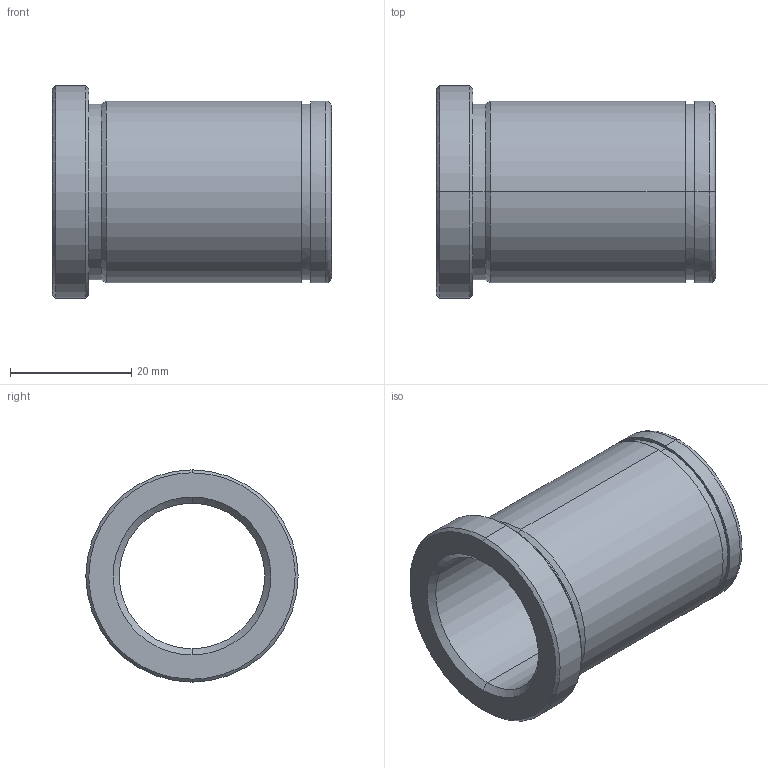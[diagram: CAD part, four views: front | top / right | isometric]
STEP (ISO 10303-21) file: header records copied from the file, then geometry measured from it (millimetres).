
FILE_DESCRIPTION(('CATIA V5 STEP Exchange'),'2;1');
FILE_NAME('C:\Users\Utente\Desktop\IO LAVORO\3D X SITO CF\X SITO\PLASTICA\553\553-24X46.stp','2021-05-25T18:22:37+00:00',('none'),('none'),'CATIA Version 5 Release 20 GA (IN-10)','CATIA V5 STEP AP203','none');
FILE_SCHEMA(('CONFIG_CONTROL_DESIGN'));
Length unit declared in the file: millimetre
Products named in the file (1): 553-24X46
Bounding box: 46 x 35 x 35 mm (x, y, z)
Volume: 12926.7 mm3; surface area: 8859.8 mm2
Topology: 1 solids, 1 shells, 29 faces, 92 edges, 68 vertices
Faces by surface type: cylinder 12, cone 8, plane 5, torus 4
Entity records: 1222 total; most frequent: CARTESIAN_POINT 368, ORIENTED_EDGE 184, DIRECTION 136, EDGE_CURVE 92, AXIS2_PLACEMENT_3D 88, VERTEX_POINT 68, CIRCLE 58, EDGE_LOOP 34
